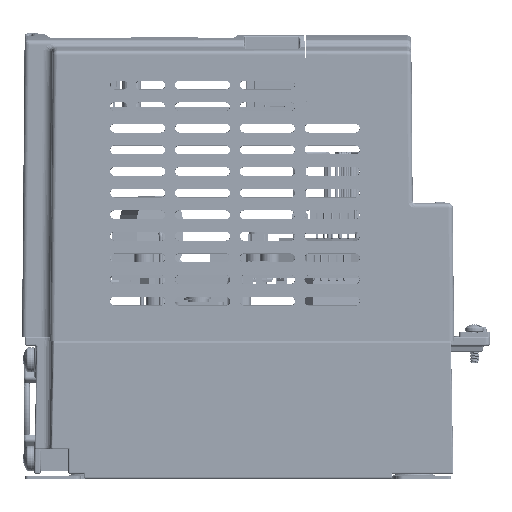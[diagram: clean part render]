
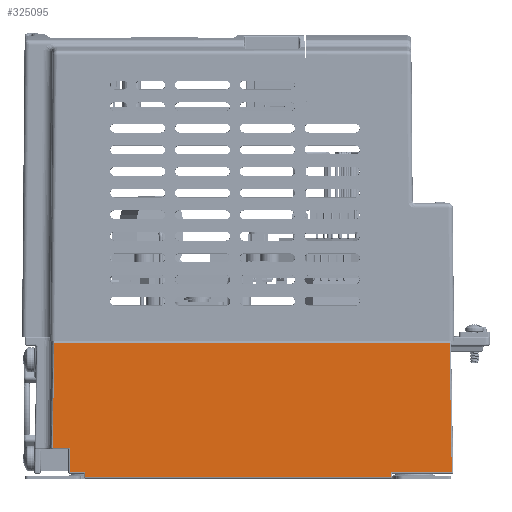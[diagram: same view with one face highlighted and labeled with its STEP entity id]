
A CAD part, left-side view. The second image highlights one B-rep face of the part: STEP entity #325095.
In plain terms, the highlighted planar face has unit normal (-1, 0, 0.018).
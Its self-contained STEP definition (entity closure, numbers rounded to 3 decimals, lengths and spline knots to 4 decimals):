
#20147=FACE_OUTER_BOUND('',#38099,.T.);
#38099=EDGE_LOOP('',(#226941,#226942,#226943,#226944,#226945,#226946,#226947,
#226948,#226949,#226950));
#65030=LINE('',#511875,#96135);
#65159=LINE('',#512337,#96264);
#65272=LINE('',#514179,#96377);
#65273=LINE('',#514188,#96378);
#65274=LINE('',#514193,#96379);
#65275=LINE('',#514200,#96380);
#65276=LINE('',#514203,#96381);
#65277=LINE('',#514208,#96382);
#70338=LINE('',#532371,#101443);
#70339=LINE('',#532373,#101444);
#96135=VECTOR('',#376735,1.654);
#96264=VECTOR('',#377080,0.7762);
#96377=VECTOR('',#377383,3.8976);
#96378=VECTOR('',#377398,0.0591);
#96379=VECTOR('',#377403,0.315);
#96380=VECTOR('',#377414,0.2195);
#96381=VECTOR('',#377419,0.1969);
#96382=VECTOR('',#377426,1.339);
#101443=VECTOR('',#389675,5.038);
#101444=VECTOR('',#389678,0.0591);
#129591=VERTEX_POINT('',#511871);
#129592=VERTEX_POINT('',#511873);
#129810=VERTEX_POINT('',#512336);
#129978=VERTEX_POINT('',#514177);
#129979=VERTEX_POINT('',#514178);
#129980=VERTEX_POINT('',#514187);
#129981=VERTEX_POINT('',#514191);
#129982=VERTEX_POINT('',#514192);
#129983=VERTEX_POINT('',#514199);
#129984=VERTEX_POINT('',#514207);
#162179=EDGE_CURVE('',#129591,#129592,#65030,.T.);
#162408=EDGE_CURVE('',#129810,#129591,#65159,.T.);
#162620=EDGE_CURVE('',#129978,#129979,#65272,.T.);
#162625=EDGE_CURVE('',#129980,#129978,#65273,.T.);
#162627=EDGE_CURVE('',#129981,#129982,#65274,.T.);
#162631=EDGE_CURVE('',#129983,#129981,#65275,.T.);
#162633=EDGE_CURVE('',#129982,#129980,#65276,.T.);
#162635=EDGE_CURVE('',#129984,#129983,#65277,.T.);
#169280=EDGE_CURVE('',#129592,#129984,#70338,.T.);
#169281=EDGE_CURVE('',#129979,#129810,#70339,.T.);
#226941=ORIENTED_EDGE('',*,*,#162631,.T.);
#226942=ORIENTED_EDGE('',*,*,#162627,.T.);
#226943=ORIENTED_EDGE('',*,*,#162633,.T.);
#226944=ORIENTED_EDGE('',*,*,#162625,.T.);
#226945=ORIENTED_EDGE('',*,*,#162620,.T.);
#226946=ORIENTED_EDGE('',*,*,#169281,.T.);
#226947=ORIENTED_EDGE('',*,*,#162408,.T.);
#226948=ORIENTED_EDGE('',*,*,#162179,.T.);
#226949=ORIENTED_EDGE('',*,*,#169280,.T.);
#226950=ORIENTED_EDGE('',*,*,#162635,.T.);
#295510=PLANE('',#345982);
#325095=ADVANCED_FACE('',(#20147),#295510,.T.);
#345982=AXIS2_PLACEMENT_3D('',#532372,#389676,#389677);
#376735=DIRECTION('',(0.017,0.017,1.));
#377080=DIRECTION('',(0.,-1.,0.));
#377383=DIRECTION('',(0.,-1.,0.));
#377398=DIRECTION('',(-0.017,0.,-1.));
#377403=DIRECTION('',(-0.017,0.,-1.));
#377414=DIRECTION('',(0.,-1.,0.));
#377419=DIRECTION('',(0.,-1.,0.));
#377426=DIRECTION('',(-0.017,0.017,-1.));
#389675=DIRECTION('',(0.,1.,0.));
#389676=DIRECTION('center_axis',(-1.,0.,
0.017));
#389677=DIRECTION('ref_axis',(0.017,0.,1.));
#389678=DIRECTION('',(0.017,0.,1.));
#511871=CARTESIAN_POINT('',(-1.603,-2.725,0.7838));
#511873=CARTESIAN_POINT('',(-1.5741,-2.6962,2.4374));
#511875=CARTESIAN_POINT('',(-1.603,-2.725,0.7838));
#512336=CARTESIAN_POINT('',(-1.603,-1.9488,0.7838));
#512337=CARTESIAN_POINT('',(-1.603,-1.9488,0.7838));
#514177=CARTESIAN_POINT('',(-1.604,1.9488,0.7248));
#514178=CARTESIAN_POINT('',(-1.604,-1.9488,0.7248));
#514179=CARTESIAN_POINT('',(-1.604,1.9488,0.7248));
#514187=CARTESIAN_POINT('',(-1.603,1.9488,0.7838));
#514188=CARTESIAN_POINT('',(-1.603,1.9488,0.7838));
#514191=CARTESIAN_POINT('',(-1.5975,2.1457,1.0988));
#514192=CARTESIAN_POINT('',(-1.603,2.1457,0.7838));
#514193=CARTESIAN_POINT('',(-1.5975,2.1457,1.0988));
#514199=CARTESIAN_POINT('',(-1.5975,2.3652,1.0988));
#514200=CARTESIAN_POINT('',(-1.5975,2.3652,1.0988));
#514203=CARTESIAN_POINT('',(-1.603,2.1457,0.7838));
#514207=CARTESIAN_POINT('',(-1.5741,2.3418,2.4374));
#514208=CARTESIAN_POINT('',(-1.5741,2.3418,2.4374));
#532371=CARTESIAN_POINT('',(-1.5741,-2.6962,2.4374));
#532372=CARTESIAN_POINT('Origin',(-1.604,-2.7251,0.7247));
#532373=CARTESIAN_POINT('',(-1.604,-1.9488,0.7248));
